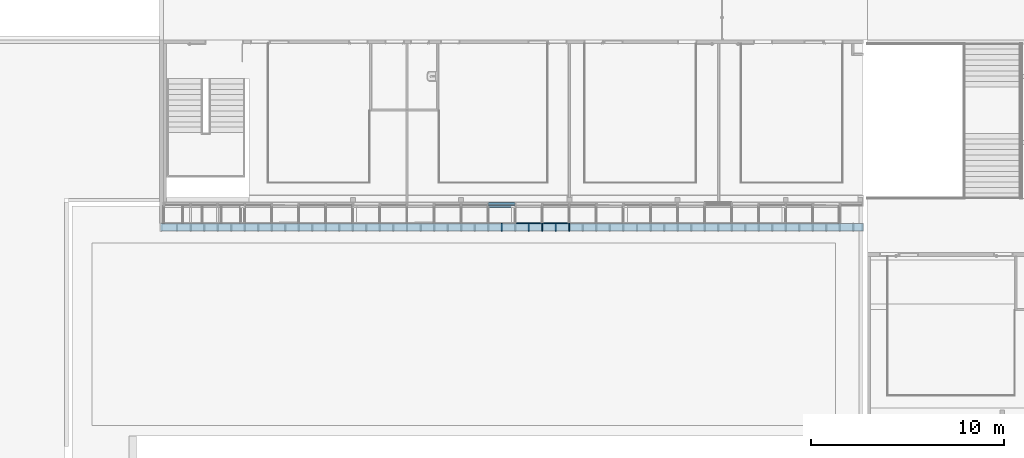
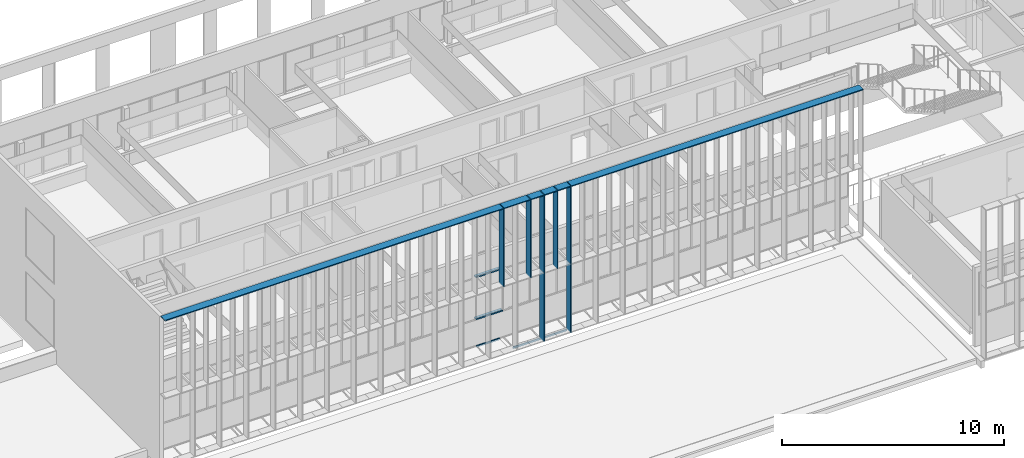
# One storey, part 7 of 106: 13 members, 3 elements without a shape of their own.
"""IFC2X3 building model written with IfcOpenShell, lengths in centimetres."""

from ifc_helpers import new_model, entity, si_unit, converted_unit, derived_unit, direction, frame, origin, origin_2d_with_axis, place, context, subcontext, project, spatial, polyline, rectangle, outline, extrude, source, transform, mapped, material, type_object, type_shapes, element, aggregate, save


model = new_model("IFC2X3")

# Units and contexts
model_context = context("Model", 3, precision=0.001, world=origin(), true_north=direction((6.12303176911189e-17, 1.0)))
body_context = subcontext(model_context, "Body", "Model", "MODEL_VIEW")
ifc_project = project(units=[si_unit("LENGTHUNIT", "METRE", prefix="CENTI"), si_unit("AREAUNIT", "SQUARE_METRE"), si_unit("VOLUMEUNIT", "CUBIC_METRE"), converted_unit("PLANEANGLEUNIT", "DEGREE", entity("IfcRatioMeasure", 0.0174532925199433), si_unit("PLANEANGLEUNIT", "RADIAN"), dimensions=[0, 0, 0, 0, 0, 0, 0]), si_unit("MASSUNIT", "GRAM", prefix="KILO"), derived_unit("MASSDENSITYUNIT", [(si_unit("MASSUNIT", "GRAM", prefix="KILO"), 1), (si_unit("LENGTHUNIT", "METRE"), -3)]), si_unit("TIMEUNIT", "SECOND"), si_unit("FREQUENCYUNIT", "HERTZ"), si_unit("THERMODYNAMICTEMPERATUREUNIT", "DEGREE_CELSIUS"), derived_unit("THERMALTRANSMITTANCEUNIT", [(si_unit("MASSUNIT", "GRAM", prefix="KILO"), 1), (si_unit("THERMODYNAMICTEMPERATUREUNIT", "KELVIN"), -1), (si_unit("TIMEUNIT", "SECOND"), -3)]), derived_unit("VOLUMETRICFLOWRATEUNIT", [(si_unit("LENGTHUNIT", "METRE"), 3), (si_unit("TIMEUNIT", "SECOND"), -1)]), si_unit("ELECTRICCURRENTUNIT", "AMPERE"), si_unit("ELECTRICVOLTAGEUNIT", "VOLT"), si_unit("POWERUNIT", "WATT"), si_unit("FORCEUNIT", "NEWTON", prefix="KILO"), si_unit("ILLUMINANCEUNIT", "LUX"), si_unit("LUMINOUSFLUXUNIT", "LUMEN"), si_unit("LUMINOUSINTENSITYUNIT", "CANDELA"), derived_unit("USERDEFINED", [(si_unit("MASSUNIT", "GRAM", prefix="KILO"), -1), (si_unit("LENGTHUNIT", "METRE"), -2), (si_unit("TIMEUNIT", "SECOND"), 3), (si_unit("LUMINOUSFLUXUNIT", "LUMEN"), 1)]), derived_unit("LINEARVELOCITYUNIT", [(si_unit("LENGTHUNIT", "METRE"), 1), (si_unit("TIMEUNIT", "SECOND"), -1)]), si_unit("PRESSUREUNIT", "PASCAL"), derived_unit("USERDEFINED", [(si_unit("LENGTHUNIT", "METRE"), -2), (si_unit("MASSUNIT", "GRAM", prefix="KILO"), 1), (si_unit("TIMEUNIT", "SECOND"), -2)])], contexts=[model_context])

# Site, building, storey
site_placement = place(None, frame((-2781.94577612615, 7442.24238424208, 0.0)))
site = spatial("IfcSite", under=ifc_project, at=site_placement, Name="Default", CompositionType="ELEMENT")
building_placement = place(site_placement, origin())
building = spatial("IfcBuilding", under=site, at=building_placement, CompositionType="ELEMENT")
storey_placement = place(building_placement, frame((0.0, 0.0, 422.0)))
storey = spatial("IfcBuildingStorey", under=building, at=storey_placement, Name="Toiture - Cuisine", CompositionType="ELEMENT", Elevation=421.999999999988)

# Roof, members
curtain_wall_type_1 = type_object("IfcCurtainWallType", Name="Vitres inclinées:Toit en verre 1 m x 2 m", PredefinedType="NOTDEFINED")
roof_placement = place(building_placement, origin())
roof = element("IfcRoof", 1, at=roof_placement, inside=storey, type_object=curtain_wall_type_1, Name="Vitres inclinées:Toit en verre 1 m x 2 m", ObjectType="Vitres inclinées:Toit en verre 1 m x 2 m", ShapeType="NOTDEFINED")
ifc_material_1 = material(Name="Plastique, blanc opaque")
member_type_1 = type_object("IfcMemberType", Name="100 x 50mm", PredefinedType="MEMBER")
shared_shape_1 = source(origin(), body_context, "Body", "SweptSolid", [
    extrude(rectangle(XDim=10.0, YDim=5.0, at=origin_2d_with_axis()), frame((-2.5, 0.0, -140.0), z_axis=(0.0, 0.0, 1.0), x_axis=(0.0, -1.0, 0.0)), (0.0, 0.0, 1.0), 140.0),
])
type_shapes(member_type_1, [shared_shape_1])
member_1_placement = place(building_placement, frame((-6449.50004166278, -2040.34071342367, 357.99314767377), z_axis=(1.0, 0.0, 0.0), x_axis=(0.0, -0.998629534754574, -0.0523359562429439)))
member_1 = element("IfcMember", 2, at=member_1_placement, type_object=member_type_1, material=ifc_material_1, Name="Meneau rectangulaire:100 x 50mm", ObjectType="Meneau rectangulaire:100 x 50mm", context=body_context, shape_type="MappedRepresentation", body=[
    mapped(shared_shape_1, transform((0.0, 0.0, 0.0), scale=1.0)),
])
member_2_placement = place(building_placement, frame((-6309.50004166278, -2040.34071342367, 357.99314767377), z_axis=(1.0, 0.0, 0.0), x_axis=(0.0, -0.998629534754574, -0.0523359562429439)))
member_2 = element("IfcMember", 3, at=member_2_placement, type_object=member_type_1, material=ifc_material_1, Name="Meneau rectangulaire:100 x 50mm", ObjectType="Meneau rectangulaire:100 x 50mm", context=body_context, shape_type="MappedRepresentation", body=[
    mapped(shared_shape_1, transform((0.0, 0.0, 0.0), scale=1.0)),
])
member_type_2 = type_object("IfcMemberType", Name="100 x 50mm", PredefinedType="MEMBER")
shared_shape_2 = source(origin(), body_context, "Body", "SweptSolid", [
    extrude(rectangle(XDim=10.0, YDim=5.0, at=origin_2d_with_axis()), frame((-2.5, 0.0, -120.000164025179), z_axis=(0.0, 0.0, 1.0), x_axis=(0.0, -1.0, 0.0)), (0.0, 0.0, 1.0), 120.000164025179),
])
type_shapes(member_type_2, [shared_shape_2])
member_3_placement = place(building_placement, frame((-6729.49987763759, -1950.34071342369, 362.709847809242), z_axis=(-1.0, 0.0, 0.0), x_axis=(0.0, 0.998629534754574, 0.0523359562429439)))
member_3 = element("IfcMember", 4, at=member_3_placement, type_object=member_type_2, material=ifc_material_1, Name="Meneau rectangulaire:100 x 50mm", ObjectType="Meneau rectangulaire:100 x 50mm", context=body_context, shape_type="MappedRepresentation", body=[
    mapped(shared_shape_2, transform((0.0, 0.0, 0.0), scale=1.0)),
])
aggregate(roof, [member_3, member_1, member_2])

# Curtain wall, members
curtain_wall_type_2 = type_object("IfcCurtainWallType", Name="Mur-rideau:07 - mur rideau trame 140 cm", PredefinedType="NOTDEFINED")
curtain_wall_1_placement = place(building_placement, origin())
curtain_wall_1 = element("IfcCurtainWall", 5, at=curtain_wall_1_placement, inside=storey, type_object=curtain_wall_type_2, Name="Mur-rideau:07 - mur rideau trame 140 cm", ObjectType="Mur-rideau:07 - mur rideau trame 140 cm")
ifc_material_2 = material(Name="Aluminium")
member_type_3 = type_object("IfcMemberType", Name="150 x 25mm Détails", PredefinedType="MEMBER")
shared_shape_3 = source(origin(), body_context, "Body", "SweptSolid", [
    extrude(outline(polyline([(-5.6666666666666, -3.24999999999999), (-3.66666666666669, -3.24999999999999), (-3.66666666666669, -0.868749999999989), (-0.166666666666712, -0.868749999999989), (-0.166666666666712, -3.25000000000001), (13.3333333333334, -3.25000000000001), (13.3333333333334, 3.24999999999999), (-0.16666666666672, 3.24999999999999), (-0.16666666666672, 0.868749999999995), (-3.66666666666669, 0.868749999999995), (-3.66666666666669, 3.25), (-5.6666666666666, 3.25), (-5.6666666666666, -3.24999999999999)])), frame((-3.24999999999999, -1.96666666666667, -140.0), z_axis=(0.0, 0.0, 1.0), x_axis=(0.0, -1.0, 0.0)), (0.0, 0.0, 1.0), 140.000000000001),
])
type_shapes(member_type_3, [shared_shape_3])
member_4_placement = place(building_placement, frame((-6589.49987763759, -1946.27903364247, 743.0), z_axis=(1.0, 0.0, 0.0), x_axis=(0.0, 0.0, 1.0)))
member_4 = element("IfcMember", 6, at=member_4_placement, type_object=member_type_3, material=ifc_material_2, Name="Meneau rectangulaire:150 x 25mm Détails", ObjectType="Meneau rectangulaire:150 x 25mm Détails", context=body_context, shape_type="MappedRepresentation", body=[
    mapped(shared_shape_3, transform((0.0, 0.0, 0.0), scale=1.0)),
])
member_type_4 = type_object("IfcMemberType", Name="150 x 25mm Détails", PredefinedType="MEMBER")
shared_shape_4 = source(origin(), body_context, "Body", "SweptSolid", [
    extrude(outline(polyline([(-5.66666666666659, -3.25), (-3.66666666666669, -3.25), (-3.66666666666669, -0.868749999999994), (-0.166666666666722, -0.868749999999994), (-0.166666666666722, -3.25000000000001), (13.3333333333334, -3.24999999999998), (13.3333333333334, 3.25000000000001), (-0.166666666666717, 3.25000000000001), (-0.166666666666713, 0.868749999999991), (-3.66666666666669, 0.868749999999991), (-3.66666666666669, 3.24999999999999), (-5.66666666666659, 3.24999999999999), (-5.66666666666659, -3.25)])), frame((-3.24999999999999, -1.96666666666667, -140.0), z_axis=(0.0, 0.0, 1.0), x_axis=(0.0, -1.0, 0.0)), (0.0, 0.0, 1.0), 140.000000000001),
])
type_shapes(member_type_4, [shared_shape_4])
member_5_placement = place(building_placement, frame((-6729.49987763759, -1946.27903364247, 505.5), z_axis=(-1.0, 0.0, 0.0), x_axis=(0.0, 0.0, -1.0)))
member_5 = element("IfcMember", 7, at=member_5_placement, type_object=member_type_4, material=ifc_material_2, Name="Meneau rectangulaire:150 x 25mm Détails", ObjectType="Meneau rectangulaire:150 x 25mm Détails", context=body_context, shape_type="MappedRepresentation", body=[
    mapped(shared_shape_4, transform((0.0, 0.0, 0.0), scale=1.0)),
])
aggregate(curtain_wall_1, [member_4, member_5])

curtain_wall_type_3 = type_object("IfcCurtainWallType", Name="Mur-rideau:Epines - 400x30mm", PredefinedType="NOTDEFINED")
curtain_wall_2_placement = place(building_placement, origin())
curtain_wall_2 = element("IfcCurtainWall", 8, at=curtain_wall_2_placement, inside=storey, type_object=curtain_wall_type_3, Name="Mur-rideau:Epines - 400x30mm", ObjectType="Mur-rideau:Epines - 400x30mm")
member_type_5 = type_object("IfcMemberType", Name="Epine sud (400x50 mm)", PredefinedType="MEMBER")
shared_shape_5 = source(origin(), body_context, "Body", "SweptSolid", [
    extrude(rectangle(XDim=40.0, YDim=5.0, at=origin_2d_with_axis()), frame((0.0, 0.0, -377.950708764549), z_axis=(0.0, 0.0, 1.0), x_axis=(0.0, -1.0, 0.0)), (0.0, 0.0, 1.0), 377.950708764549),
])
type_shapes(member_type_5, [shared_shape_5])
member_6_placement = place(building_placement, frame((-6449.49987763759, -2060.07903364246, 367.449291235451), z_axis=(0.0, 0.0, -1.0), x_axis=(1.0, 0.0, 0.0)))
member_6 = element("IfcMember", 9, at=member_6_placement, type_object=member_type_5, material=ifc_material_2, Name="Meneau rectangulaire:Epine sud (400x50 mm)", ObjectType="Meneau rectangulaire:Epine sud (400x50 mm)", context=body_context, shape_type="MappedRepresentation", body=[
    mapped(shared_shape_5, transform((0.0, 0.0, 0.0), scale=1.0)),
])
member_7_placement = place(building_placement, frame((-6309.49987763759, -2060.07903364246, 367.449291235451), z_axis=(0.0, 0.0, -1.0), x_axis=(1.0, 0.0, 0.0)))
member_7 = element("IfcMember", 10, at=member_7_placement, type_object=member_type_5, material=ifc_material_2, Name="Meneau rectangulaire:Epine sud (400x50 mm)", ObjectType="Meneau rectangulaire:Epine sud (400x50 mm)", context=body_context, shape_type="MappedRepresentation", body=[
    mapped(shared_shape_5, transform((0.0, 0.0, 0.0), scale=1.0)),
])
member_type_6 = type_object("IfcMemberType", Name="Epine sud (400x50 mm)", PredefinedType="MEMBER")
shared_shape_6 = source(origin(), body_context, "Body", "SweptSolid", [
    extrude(rectangle(XDim=40.0, YDim=5.0, at=origin_2d_with_axis()), frame((0.0, 0.0, -430.600000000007), z_axis=(0.0, 0.0, 1.0), x_axis=(0.0, -1.0, 0.0)), (0.0, 0.0, 1.0), 430.600000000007),
])
type_shapes(member_type_6, [shared_shape_6])
member_8_placement = place(building_placement, frame((-6449.49987763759, -2060.07903364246, 745.4), z_axis=(0.0, 0.0, -1.0), x_axis=(1.0, 0.0, 0.0)))
member_8 = element("IfcMember", 11, at=member_8_placement, type_object=member_type_6, material=ifc_material_2, Name="Meneau rectangulaire:Epine sud (400x50 mm)", ObjectType="Meneau rectangulaire:Epine sud (400x50 mm)", context=body_context, shape_type="MappedRepresentation", body=[
    mapped(shared_shape_6, transform((0.0, 0.0, 0.0), scale=1.0)),
])
member_9_placement = place(building_placement, frame((-6309.49987763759, -2060.07903364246, 745.4), z_axis=(0.0, 0.0, -1.0), x_axis=(1.0, 0.0, 0.0)))
member_9 = element("IfcMember", 12, at=member_9_placement, type_object=member_type_6, material=ifc_material_2, Name="Meneau rectangulaire:Epine sud (400x50 mm)", ObjectType="Meneau rectangulaire:Epine sud (400x50 mm)", context=body_context, shape_type="MappedRepresentation", body=[
    mapped(shared_shape_6, transform((0.0, 0.0, 0.0), scale=1.0)),
])
member_type_7 = type_object("IfcMemberType", Name="Epine sud (400x50 mm)", PredefinedType="MEMBER")
shared_shape_7 = source(origin(), body_context, "Body", "SweptSolid", [
    extrude(rectangle(XDim=40.0, YDim=5.0, at=origin_2d_with_axis()), frame((-2.5, 0.0, -3636.50000322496), z_axis=(0.0, 0.0, 1.0), x_axis=(0.0, -1.0, 0.0)), (0.0, 0.0, 1.0), 3636.50000322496),
])
type_shapes(member_type_7, [shared_shape_7])
member_10_placement = place(building_placement, frame((-4787.99987760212, -2060.07903364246, 1176.0), z_axis=(1.0, 0.0, 0.0), x_axis=(0.0, 0.0, 1.0)))
member_10 = element("IfcMember", 13, at=member_10_placement, type_object=member_type_7, material=ifc_material_2, Name="Meneau rectangulaire:Epine sud (400x50 mm)", ObjectType="Meneau rectangulaire:Epine sud (400x50 mm)", context=body_context, shape_type="MappedRepresentation", body=[
    mapped(shared_shape_7, transform((0.0, 0.0, 0.0), scale=1.0)),
])
member_type_8 = type_object("IfcMemberType", Name="Epine sud (400x50 mm)", PredefinedType="MEMBER")
shared_shape_8 = source(origin(), body_context, "Body", "SweptSolid", [
    extrude(rectangle(XDim=40.0, YDim=5.0, at=origin_2d_with_axis()), frame((0.0, 0.0, -433.100000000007), z_axis=(0.0, 0.0, 1.0), x_axis=(0.0, -1.0, 0.0)), (0.0, 0.0, 1.0), 433.100000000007),
])
type_shapes(member_type_8, [shared_shape_8])
member_11_placement = place(building_placement, frame((-6659.49987763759, -2060.07903364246, 742.9), z_axis=(0.0, 0.0, -1.0), x_axis=(1.0, 0.0, 0.0)))
member_11 = element("IfcMember", 14, at=member_11_placement, type_object=member_type_8, material=ifc_material_2, Name="Meneau rectangulaire:Epine sud (400x50 mm)", ObjectType="Meneau rectangulaire:Epine sud (400x50 mm)", context=body_context, shape_type="MappedRepresentation", body=[
    mapped(shared_shape_8, transform((0.0, 0.0, 0.0), scale=1.0)),
])
member_12_placement = place(building_placement, frame((-6519.49987763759, -2060.07903364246, 742.9), z_axis=(0.0, 0.0, -1.0), x_axis=(1.0, 0.0, 0.0)))
member_12 = element("IfcMember", 15, at=member_12_placement, type_object=member_type_8, material=ifc_material_2, Name="Meneau rectangulaire:Epine sud (400x50 mm)", ObjectType="Meneau rectangulaire:Epine sud (400x50 mm)", context=body_context, shape_type="MappedRepresentation", body=[
    mapped(shared_shape_8, transform((0.0, 0.0, 0.0), scale=1.0)),
])
member_13_placement = place(building_placement, frame((-6379.49987763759, -2060.07903364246, 742.9), z_axis=(0.0, 0.0, -1.0), x_axis=(1.0, 0.0, 0.0)))
member_13 = element("IfcMember", 16, at=member_13_placement, type_object=member_type_8, material=ifc_material_2, Name="Meneau rectangulaire:Epine sud (400x50 mm)", ObjectType="Meneau rectangulaire:Epine sud (400x50 mm)", context=body_context, shape_type="MappedRepresentation", body=[
    mapped(shared_shape_8, transform((0.0, 0.0, 0.0), scale=1.0)),
])
aggregate(curtain_wall_2, [member_8, member_6, member_9, member_7, member_10, member_11, member_12, member_13])

save(model, "model.ifc")
